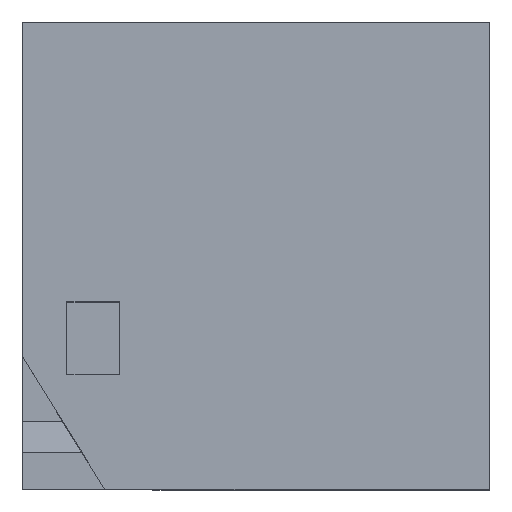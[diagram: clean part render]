
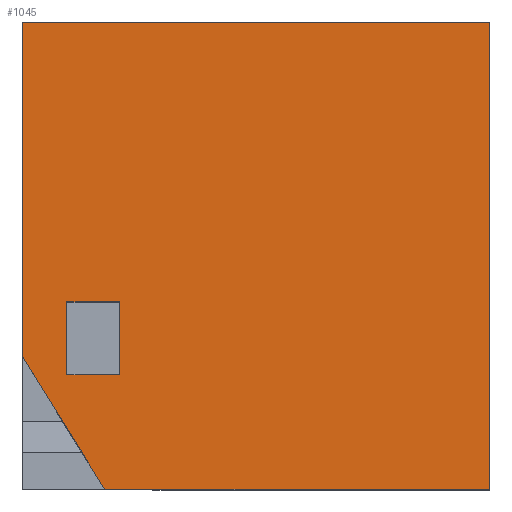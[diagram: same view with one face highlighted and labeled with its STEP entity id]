
A CAD part, top view. The second image highlights one B-rep face of the part: STEP entity #1045.
In plain terms, the highlighted planar face has unit normal (0, 0, 1).
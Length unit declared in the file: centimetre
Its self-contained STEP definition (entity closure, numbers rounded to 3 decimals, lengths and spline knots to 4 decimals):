
#5 = VECTOR ( 'NONE', #359, 100. ) ;
#16 = DIRECTION ( 'NONE',  ( -1., 0., 0. ) ) ;
#35 = EDGE_CURVE ( 'NONE', #457, #733, #755, .T. ) ;
#56 = EDGE_CURVE ( 'NONE', #112, #897, #325, .T. ) ;
#58 = DIRECTION ( 'NONE',  ( 0., 1., 0. ) ) ;
#82 = ORIENTED_EDGE ( 'NONE', *, *, #964, .T. ) ;
#112 = VERTEX_POINT ( 'NONE', #653 ) ;
#113 = VECTOR ( 'NONE', #431, 100. ) ;
#136 = CARTESIAN_POINT ( 'NONE',  ( 207.6582, 245.3733, 1000. ) ) ;
#139 = VECTOR ( 'NONE', #553, 100. ) ;
#140 = LINE ( 'NONE', #1047, #587 ) ;
#166 = CARTESIAN_POINT ( 'NONE',  ( 207.6582, 401.6732, 1000. ) ) ;
#174 = CARTESIAN_POINT ( 'NONE',  ( 1000., 1000., 1000. ) ) ;
#178 = PLANE ( 'NONE',  #443 ) ;
#214 = VERTEX_POINT ( 'NONE', #1142 ) ;
#232 = VECTOR ( 'NONE', #16, 100. ) ;
#238 = CARTESIAN_POINT ( 'NONE',  ( 0., 1000., 1000. ) ) ;
#247 = VECTOR ( 'NONE', #58, 100. ) ;
#249 = EDGE_CURVE ( 'NONE', #733, #214, #988, .T. ) ;
#253 = VERTEX_POINT ( 'NONE', #889 ) ;
#273 = ORIENTED_EDGE ( 'NONE', *, *, #663, .T. ) ;
#274 = CARTESIAN_POINT ( 'NONE',  ( 95.3063, 401.6732, 1000. ) ) ;
#278 = CARTESIAN_POINT ( 'NONE',  ( 0., 1000., 1000. ) ) ;
#317 = EDGE_LOOP ( 'NONE', ( #529, #626, #773, #646 ) ) ;
#325 = LINE ( 'NONE', #136, #247 ) ;
#342 = VECTOR ( 'NONE', #857, 100. ) ;
#350 = DIRECTION ( 'NONE',  ( 1., 0., 0. ) ) ;
#359 = DIRECTION ( 'NONE',  ( 0., -1., 0. ) ) ;
#378 = VERTEX_POINT ( 'NONE', #1101 ) ;
#403 = DIRECTION ( 'NONE',  ( 1., 0., 0. ) ) ;
#418 = LINE ( 'NONE', #238, #973 ) ;
#420 = EDGE_CURVE ( 'NONE', #477, #253, #923, .T. ) ;
#431 = DIRECTION ( 'NONE',  ( -0.526, 0.85, 0. ) ) ;
#443 = AXIS2_PLACEMENT_3D ( 'NONE', #599, #730, #350 ) ;
#454 = CARTESIAN_POINT ( 'NONE',  ( 95.3063, 245.3733, 1000. ) ) ;
#457 = VERTEX_POINT ( 'NONE', #930 ) ;
#477 = VERTEX_POINT ( 'NONE', #570 ) ;
#496 = CARTESIAN_POINT ( 'NONE',  ( 1000., 0., 1000. ) ) ;
#529 = ORIENTED_EDGE ( 'NONE', *, *, #420, .F. ) ;
#546 = ORIENTED_EDGE ( 'NONE', *, *, #1130, .F. ) ;
#548 = LINE ( 'NONE', #274, #232 ) ;
#553 = DIRECTION ( 'NONE',  ( 0., -1., 0. ) ) ;
#570 = CARTESIAN_POINT ( 'NONE',  ( 95.3063, 401.6732, 1000. ) ) ;
#580 = ORIENTED_EDGE ( 'NONE', *, *, #35, .T. ) ;
#587 = VECTOR ( 'NONE', #403, 100. ) ;
#599 = CARTESIAN_POINT ( 'NONE',  ( 0., 0., 1000. ) ) ;
#605 = EDGE_LOOP ( 'NONE', ( #546, #580, #763, #273, #82 ) ) ;
#606 = LINE ( 'NONE', #917, #113 ) ;
#626 = ORIENTED_EDGE ( 'NONE', *, *, #966, .F. ) ;
#637 = VECTOR ( 'NONE', #779, 100. ) ;
#644 = FACE_BOUND ( 'NONE', #317, .T. ) ;
#646 = ORIENTED_EDGE ( 'NONE', *, *, #758, .F. ) ;
#653 = CARTESIAN_POINT ( 'NONE',  ( 207.6582, 245.3733, 1000. ) ) ;
#663 = EDGE_CURVE ( 'NONE', #214, #378, #418, .T. ) ;
#704 = FACE_OUTER_BOUND ( 'NONE', #605, .T. ) ;
#726 = CARTESIAN_POINT ( 'NONE',  ( 0., 284.6091, 1000. ) ) ;
#730 = DIRECTION ( 'NONE',  ( 0., 0., 1. ) ) ;
#733 = VERTEX_POINT ( 'NONE', #496 ) ;
#755 = LINE ( 'NONE', #950, #342 ) ;
#758 = EDGE_CURVE ( 'NONE', #253, #112, #140, .T. ) ;
#763 = ORIENTED_EDGE ( 'NONE', *, *, #249, .T. ) ;
#773 = ORIENTED_EDGE ( 'NONE', *, *, #56, .F. ) ;
#779 = DIRECTION ( 'NONE',  ( 0., 1., 0. ) ) ;
#857 = DIRECTION ( 'NONE',  ( 1., 0., 0. ) ) ;
#889 = CARTESIAN_POINT ( 'NONE',  ( 95.3063, 245.3733, 1000. ) ) ;
#897 = VERTEX_POINT ( 'NONE', #166 ) ;
#898 = LINE ( 'NONE', #278, #139 ) ;
#917 = CARTESIAN_POINT ( 'NONE',  ( 0., 284.6091, 1000. ) ) ;
#923 = LINE ( 'NONE', #454, #5 ) ;
#930 = CARTESIAN_POINT ( 'NONE',  ( 176.1414, 0., 1000. ) ) ;
#950 = CARTESIAN_POINT ( 'NONE',  ( 0., 0., 1000. ) ) ;
#964 = EDGE_CURVE ( 'NONE', #378, #977, #898, .T. ) ;
#966 = EDGE_CURVE ( 'NONE', #897, #477, #548, .T. ) ;
#973 = VECTOR ( 'NONE', #1125, 100. ) ;
#977 = VERTEX_POINT ( 'NONE', #726 ) ;
#988 = LINE ( 'NONE', #174, #637 ) ;
#1045 = ADVANCED_FACE ( 'NONE', ( #704, #644 ), #178, .T. ) ;
#1047 = CARTESIAN_POINT ( 'NONE',  ( 95.3063, 245.3733, 1000. ) ) ;
#1101 = CARTESIAN_POINT ( 'NONE',  ( 0., 1000., 1000. ) ) ;
#1125 = DIRECTION ( 'NONE',  ( -1., 0., 0. ) ) ;
#1130 = EDGE_CURVE ( 'NONE', #457, #977, #606, .T. ) ;
#1142 = CARTESIAN_POINT ( 'NONE',  ( 1000., 1000., 1000. ) ) ;
